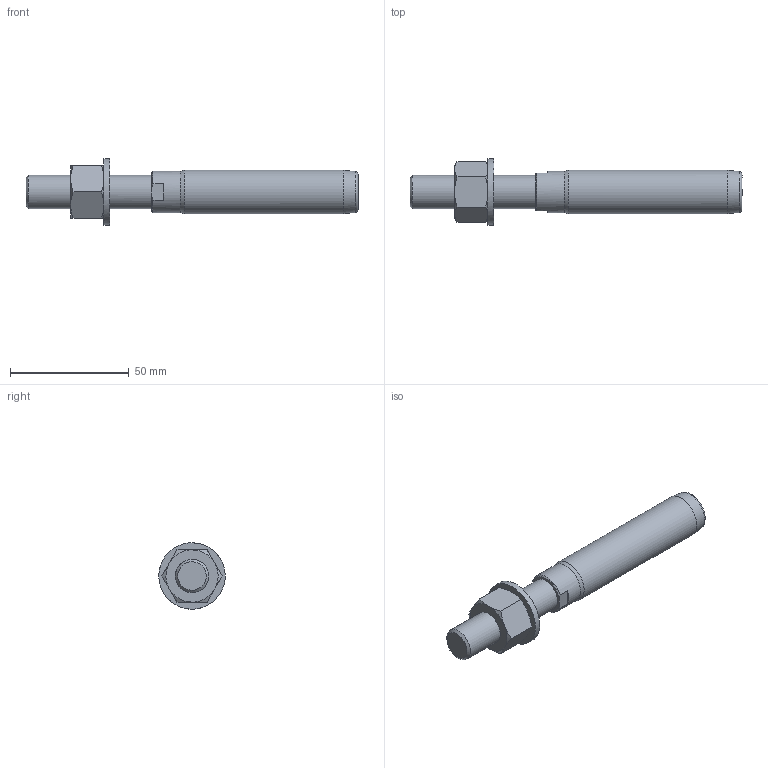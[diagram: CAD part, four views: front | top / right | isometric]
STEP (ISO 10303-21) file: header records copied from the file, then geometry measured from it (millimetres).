
FILE_DESCRIPTION(/* description */ (''),/* implementation_level */ '2;1');
FILE_NAME(/* name */ 'FLT 08_1,4462',/* time_stamp */ '2023-05-23T15:58:03+02:00',/* author */ (''),/* organization */ (''),/* preprocessor_version */ 'ST-DEVELOPER v16.5',/* originating_system */ 'Rhino 7.22',/* authorisation */ '');
FILE_SCHEMA (('CONFIG_CONTROL_DESIGN'));
Length unit declared in the file: millimetre
Products named in the file (1): Document
Bounding box: 140 x 27.99 x 27.99 mm (x, y, z)
Volume: 35903.5 mm3; surface area: 11045 mm2
Topology: 3 solids, 3 shells, 43 faces, 104 edges, 68 vertices
Faces by surface type: bspline 20, plane 17, cylinder 6
Full cylindrical faces by diameter (mm): 11.835 x1, 14 x1, 15 x1, 17.4 x1, 18.3 x1, 28 x1
Entity records: 1590 total; most frequent: CARTESIAN_POINT 881, ORIENTED_EDGE 208, EDGE_CURVE 104, VERTEX_POINT 68, EDGE_LOOP 48, ADVANCED_FACE 43, FACE_OUTER_BOUND 43, DIRECTION 27
